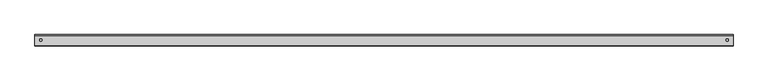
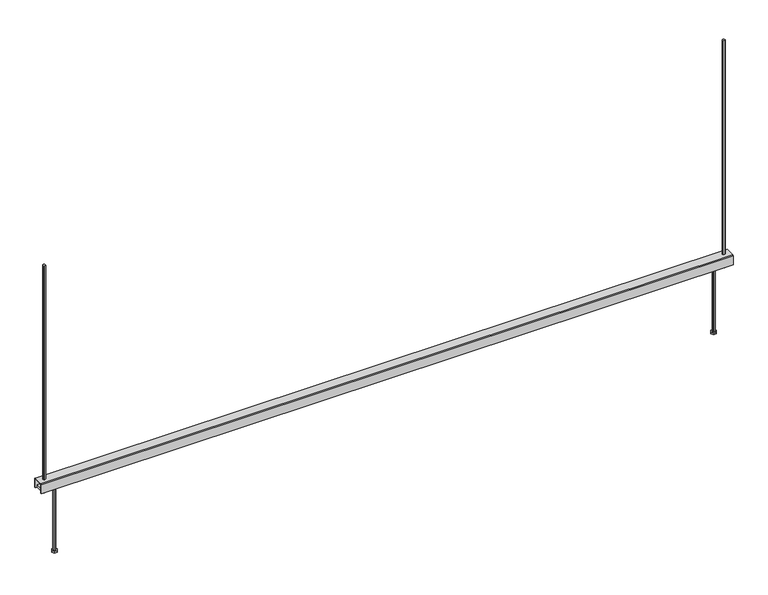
"""IFC4 building model written with IfcOpenShell, lengths in millimetres: proxy geometry, Beared-Hanger : BearedHanger."""

from ifc_helpers import new_model, si_unit, frame, origin, place, context, project, spatial, polyline, outline, extrude, source, transform, mapped, element, save


def mechanical_equipment_d1017067(model_context):
    return source(origin(), model_context, "Body", "SweptSolid", [
        extrude(outline(polyline([(1159.8302986, -17.3962402), (1159.8302986, 16.7883301), (1189.6471932, 16.7883301), (1189.6471932, -17.3962402), (1159.8302986, -17.3962402)])), frame((0.0, 0.0, -841.630912), z_axis=(0.0, 0.0, 1.0), x_axis=(1.0, 0.0, 0.0)), (0.0, 0.0, 1.0), 10.0),
        extrude(outline(polyline([(1164.7387459, 0.0), (1169.7387459, 8.659668), (1179.7387459, 8.659668), (1184.7387459, 0.0), (1179.7387459, -8.659668), (1169.7387459, -8.659668), (1164.7387459, 0.0)])), frame((0.0, 0.0, -1091.1246254), z_axis=(0.0, 0.0, 1.0), x_axis=(1.0, 0.0, 0.0)), (0.0, 0.0, 1.0), 6.6101074),
        extrude(outline(polyline([(1174.7387459, 5.0), (1178.2739022, 3.5351562), (1179.7387459, 0.0), (1178.2739022, -3.5351563), (1174.7387459, -5.0), (1171.2035897, -3.5351563), (1169.7381356, 0.0), (1171.2035897, 3.5351562), (1174.7387459, 5.0)])), frame((0.0, 0.0, -1084.5145179), z_axis=(0.0, 0.0, 1.0), x_axis=(1.0, 0.0, 0.0)), (0.0, 0.0, 1.0), 242.883606),
        extrude(outline(polyline([(-1184.7387459, 0.0), (-1179.7387459, 8.659668), (-1169.7387459, 8.659668), (-1164.7387459, 0.0), (-1169.7387459, -8.659668), (-1179.7387459, -8.659668), (-1184.7387459, 0.0)])), frame((0.0, 0.0, -1091.1246254), z_axis=(0.0, 0.0, 1.0), x_axis=(1.0, 0.0, 0.0)), (0.0, 0.0, 1.0), 6.6101074),
        extrude(outline(polyline([(-1159.8302986, 16.7883301), (-1159.8302986, -17.3962402), (-1189.6471932, -17.3962402), (-1189.6471932, 16.7883301), (-1159.8302986, 16.7883301)])), frame((0.0, 0.0, -841.630912), z_axis=(0.0, 0.0, 1.0), x_axis=(1.0, 0.0, 0.0)), (0.0, 0.0, 1.0), 10.0),
        extrude(outline(polyline([(-1174.7387459, 5.0), (-1171.2035897, 3.5351562), (-1169.7387459, 0.0), (-1171.2035897, -3.5351563), (-1174.7387459, -5.0), (-1178.2739022, -3.5351563), (-1179.7393563, 0.0), (-1178.2739022, 3.5351562), (-1174.7387459, 5.0)])), frame((0.0, 0.0, -1084.5145179), z_axis=(0.0, 0.0, 1.0), x_axis=(1.0, 0.0, 0.0)), (0.0, 0.0, 1.0), 242.883606),
        extrude(outline(polyline([(1196.2569723, -17.3962402), (1196.2569723, 16.7883301), (1226.0738668, 16.7883301), (1226.0738668, -17.3962402), (1196.2569723, -17.3962402)])), frame((0.0, 0.0, -841.630912), z_axis=(0.0, 0.0, 1.0), x_axis=(1.0, 0.0, 0.0)), (0.0, 0.0, 1.0), 10.0),
        extrude(outline(polyline([(1211.1654195, 5.0), (1214.7005758, 3.5351562), (1216.1660299, 0.0), (1214.7005758, -3.5351563), (1211.1654195, -5.0), (1207.6302633, -3.5351563), (1206.1654195, 0.0), (1207.6302633, 3.5351562), (1211.1654195, 5.0)])), frame((0.0, 0.0, -855.2155067), z_axis=(0.0, 0.0, 1.0), x_axis=(1.0, 0.0, 0.0)), (0.0, 0.0, 1.0), 855.2155067),
        extrude(outline(polyline([(-1196.2569723, 16.7883301), (-1196.2569723, -17.3962402), (-1226.0738668, -17.3962402), (-1226.0738668, 16.7883301), (-1196.2569723, 16.7883301)])), frame((0.0, 0.0, -841.630912), z_axis=(0.0, 0.0, 1.0), x_axis=(1.0, 0.0, 0.0)), (0.0, 0.0, 1.0), 10.0),
        extrude(outline(polyline([(-1211.1654195, 5.0), (-1207.6302633, 3.5351563), (-1206.1654195, 0.0), (-1207.6302633, -3.5351562), (-1211.1654195, -5.0), (-1214.7005758, -3.5351562), (-1216.1660299, 0.0), (-1214.7005758, 3.5351563), (-1211.1654195, 5.0)])), frame((0.0, 0.0, -855.2155067), z_axis=(0.0, 0.0, 1.0), x_axis=(1.0, 0.0, 0.0)), (0.0, 0.0, 1.0), 855.2155067),
        extrude(outline(polyline([(-17.8259277, -805.2155067), (17.1740723, -805.2155067), (19.6740723, -807.7152015), (19.6740723, -841.630912), (16.7883301, -841.630912), (16.7883301, -808.2153846), (-17.3962402, -808.2153846), (-17.3962402, -841.630912), (-20.3259277, -841.630912), (-20.3259277, -807.7152015), (-17.8259277, -805.2155067)])), frame((-1232.5448608, 0.0, 0.0), z_axis=(1.0, 0.0, 0.0), x_axis=(0.0, 1.0, 0.0)), (0.0, 0.0, 1.0), 2465.0897217),
    ])


if __name__ == "__main__":
    model = new_model("IFC4")
    model_context = context("Model", 3, world=origin())
    ifc_project = project(units=[si_unit("LENGTHUNIT", "METRE", prefix="MILLI")], contexts=[model_context])
    site = spatial("IfcSite", under=ifc_project)
    building = spatial("IfcBuilding", under=site)
    placement = place(None, origin())
    mechanical_equipment_shape = mechanical_equipment_d1017067(model_context)
    element("IfcBuildingElementProxy", 1, Name="Beared-Hanger : BearedHanger", ObjectType="Beared-Hanger : BearedHanger", at=placement, inside=building, context=model_context, shape_type="MappedRepresentation", body=[
        mapped(mechanical_equipment_shape, transform((0.0, 0.0, 0.0), x_axis=(1.0, 0.0, 0.0), y_axis=(0.0, 1.0, 0.0), z_axis=(0.0, 0.0, 1.0))),
    ])
    save(model, "model.ifc")
